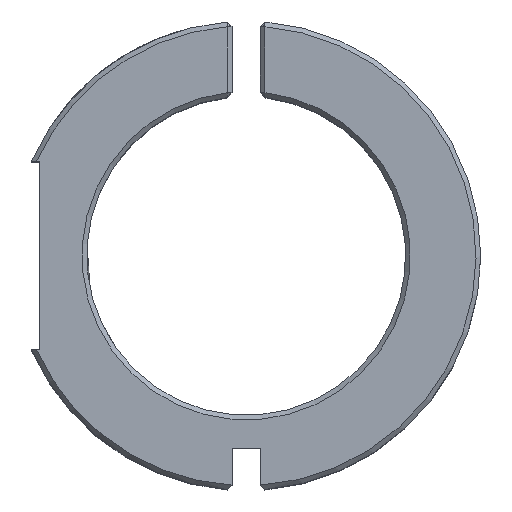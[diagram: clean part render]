
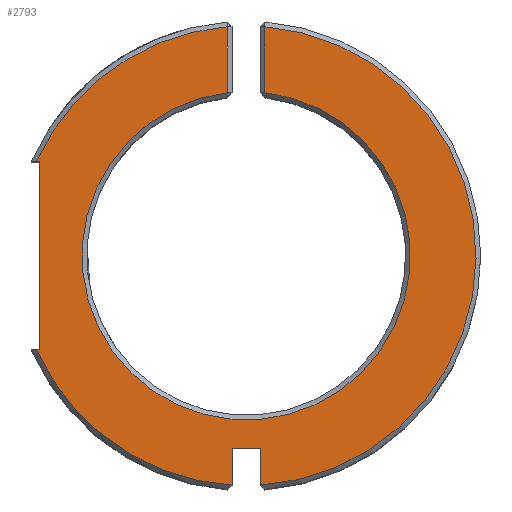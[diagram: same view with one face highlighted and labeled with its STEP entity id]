
A CAD part, top view. The second image highlights one B-rep face of the part: STEP entity #2793.
In plain terms, the highlighted planar face has unit normal (0, 0, 1).
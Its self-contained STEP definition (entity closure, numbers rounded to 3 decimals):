
#1416=CARTESIAN_POINT('',(23.5,-14.454,0.0));
#1417=VERTEX_POINT('',#1416);
#1424=CARTESIAN_POINT('',(23.5,-10.5,0.0));
#1425=VERTEX_POINT('',#1424);
#1426=CARTESIAN_POINT('',(23.5,-10.5,0.0));
#1427=DIRECTION('',(0.0,-1.0,0.0));
#1428=VECTOR('',#1427,3.954);
#1429=LINE('',#1426,#1428);
#1430=EDGE_CURVE('',#1425,#1417,#1429,.T.);
#1510=CARTESIAN_POINT('',(20.5,-14.454,0.0));
#1511=VERTEX_POINT('',#1510);
#1518=CARTESIAN_POINT('',(-0.366,0.0,0.0));
#1519=VERTEX_POINT('',#1518);
#1520=CARTESIAN_POINT('',(22.0,10.0,0.0));
#1521=DIRECTION('',(0.0,0.0,-1.0));
#1522=DIRECTION('',(0.917,0.4,0.0));
#1523=AXIS2_PLACEMENT_3D('',#1520,#1521,#1522);
#1524=CIRCLE('',#1523,24.5);
#1525=EDGE_CURVE('',#1511,#1519,#1524,.T.);
#1574=CARTESIAN_POINT('',(20.5,-10.5,0.0));
#1575=VERTEX_POINT('',#1574);
#1582=CARTESIAN_POINT('',(20.5,-14.454,0.0));
#1583=DIRECTION('',(0.0,1.0,0.0));
#1584=VECTOR('',#1583,3.954);
#1585=LINE('',#1582,#1584);
#1586=EDGE_CURVE('',#1511,#1575,#1585,.T.);
#1597=CARTESIAN_POINT('',(20.5,-10.5,0.0));
#1598=DIRECTION('',(1.0,0.0,0.0));
#1599=VECTOR('',#1598,3.);
#1600=LINE('',#1597,#1599);
#1601=EDGE_CURVE('',#1575,#1425,#1600,.T.);
#1628=CARTESIAN_POINT('',(24.0,34.418,0.0));
#1629=VERTEX_POINT('',#1628);
#1639=CARTESIAN_POINT('',(22.0,10.0,0.0));
#1640=DIRECTION('',(0.0,0.0,-1.0));
#1641=DIRECTION('',(0.917,0.4,0.0));
#1642=AXIS2_PLACEMENT_3D('',#1639,#1640,#1641);
#1643=CIRCLE('',#1642,24.5);
#1644=EDGE_CURVE('',#1629,#1417,#1643,.T.);
#2079=CARTESIAN_POINT('',(20.,27.385,0.0));
#2080=VERTEX_POINT('',#2079);
#2194=CARTESIAN_POINT('',(24.0,27.385,0.0));
#2195=VERTEX_POINT('',#2194);
#2327=CARTESIAN_POINT('',(24.0,27.385,0.0));
#2328=DIRECTION('',(0.0,1.0,0.0));
#2329=VECTOR('',#2328,7.033);
#2330=LINE('',#2327,#2329);
#2331=EDGE_CURVE('',#2195,#1629,#2330,.T.);
#2413=CARTESIAN_POINT('',(22.0,10.0,0.0));
#2414=DIRECTION('',(0.0,0.0,1.0));
#2415=DIRECTION('',(-1.0,0.0,0.0));
#2416=AXIS2_PLACEMENT_3D('',#2413,#2414,#2415);
#2417=CIRCLE('',#2416,17.5);
#2418=EDGE_CURVE('',#2080,#2195,#2417,.T.);
#2573=CARTESIAN_POINT('',(20.,34.418,0.0));
#2574=VERTEX_POINT('',#2573);
#2602=CARTESIAN_POINT('',(20.,34.418,0.0));
#2603=DIRECTION('',(0.0,-1.0,0.0));
#2604=VECTOR('',#2603,7.033);
#2605=LINE('',#2602,#2604);
#2606=EDGE_CURVE('',#2574,#2080,#2605,.T.);
#2650=CARTESIAN_POINT('',(-0.366,20.0,0.0));
#2651=VERTEX_POINT('',#2650);
#2665=CARTESIAN_POINT('',(22.0,10.0,0.0));
#2666=DIRECTION('',(0.0,0.0,-1.0));
#2667=DIRECTION('',(-0.06,0.998,0.0));
#2668=AXIS2_PLACEMENT_3D('',#2665,#2666,#2667);
#2669=CIRCLE('',#2668,24.5);
#2670=EDGE_CURVE('',#2651,#2574,#2669,.T.);
#2742=CARTESIAN_POINT('',(0.0,0.0,0.0));
#2743=VERTEX_POINT('',#2742);
#2744=CARTESIAN_POINT('',(0.0,0.0,0.0));
#2745=DIRECTION('',(-1.0,0.0,0.0));
#2746=VECTOR('',#2745,0.366);
#2747=LINE('',#2744,#2746);
#2748=EDGE_CURVE('',#2743,#1519,#2747,.T.);
#2762=CARTESIAN_POINT('',(21.376,11.84,0.0));
#2763=DIRECTION('',(0.0,0.0,1.0));
#2764=DIRECTION('',(1.0,0.0,0.0));
#2765=AXIS2_PLACEMENT_3D('',#2762,#2763,#2764);
#2766=PLANE('',#2765);
#2767=ORIENTED_EDGE('',*,*,#1430,.T.);
#2768=ORIENTED_EDGE('',*,*,#1644,.F.);
#2769=ORIENTED_EDGE('',*,*,#2331,.F.);
#2770=ORIENTED_EDGE('',*,*,#2418,.F.);
#2771=ORIENTED_EDGE('',*,*,#2606,.F.);
#2772=ORIENTED_EDGE('',*,*,#2670,.F.);
#2773=CARTESIAN_POINT('',(0.0,20.0,0.0));
#2774=VERTEX_POINT('',#2773);
#2775=CARTESIAN_POINT('',(-0.366,20.0,0.0));
#2776=DIRECTION('',(1.0,0.0,0.0));
#2777=VECTOR('',#2776,0.366);
#2778=LINE('',#2775,#2777);
#2779=EDGE_CURVE('',#2651,#2774,#2778,.T.);
#2780=ORIENTED_EDGE('',*,*,#2779,.T.);
#2781=CARTESIAN_POINT('',(0.0,20.0,0.0));
#2782=DIRECTION('',(0.0,-1.0,0.0));
#2783=VECTOR('',#2782,20.0);
#2784=LINE('',#2781,#2783);
#2785=EDGE_CURVE('',#2774,#2743,#2784,.T.);
#2786=ORIENTED_EDGE('',*,*,#2785,.T.);
#2787=ORIENTED_EDGE('',*,*,#2748,.T.);
#2788=ORIENTED_EDGE('',*,*,#1525,.F.);
#2789=ORIENTED_EDGE('',*,*,#1586,.T.);
#2790=ORIENTED_EDGE('',*,*,#1601,.T.);
#2791=EDGE_LOOP('',(#2767,#2768,#2769,#2770,#2771,#2772,#2780,#2786,#2787,#2788,#2789,#2790));
#2792=FACE_OUTER_BOUND('',#2791,.T.);
#2793=ADVANCED_FACE('',(#2792),#2766,.T.);
